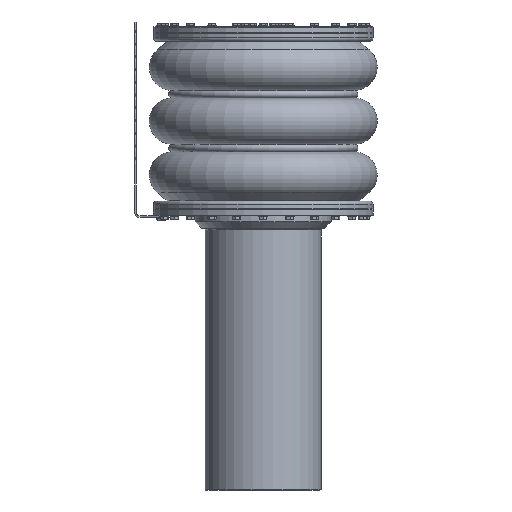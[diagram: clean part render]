
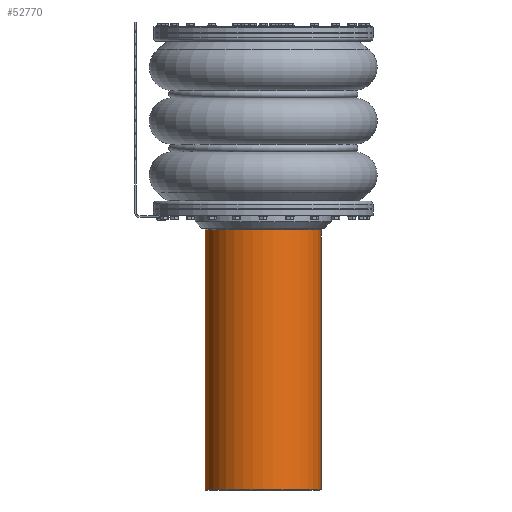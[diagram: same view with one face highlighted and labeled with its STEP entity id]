
A CAD part, left-side view. The second image highlights one B-rep face of the part: STEP entity #52770.
In plain terms, the highlighted cylindrical face has radius 136.5 mm (diameter 273 mm), a full revolution.
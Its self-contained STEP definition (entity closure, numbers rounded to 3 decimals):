
#3909=LINE('',#72112,#7798);
#7798=VECTOR('',#60708,136.5);
#11500=CYLINDRICAL_SURFACE('',#56171,136.5);
#12747=FACE_OUTER_BOUND('',#15875,.T.);
#15875=EDGE_LOOP('',(#34154,#34155,#34156,#34157));
#19357=CIRCLE('',#56172,136.5);
#19358=CIRCLE('',#56173,136.5);
#20851=VERTEX_POINT('',#72109);
#20852=VERTEX_POINT('',#72111);
#25979=EDGE_CURVE('',#20851,#20851,#19357,.T.);
#25980=EDGE_CURVE('',#20851,#20852,#3909,.T.);
#25981=EDGE_CURVE('',#20852,#20852,#19358,.T.);
#34154=ORIENTED_EDGE('',*,*,#25979,.F.);
#34155=ORIENTED_EDGE('',*,*,#25980,.T.);
#34156=ORIENTED_EDGE('',*,*,#25981,.F.);
#34157=ORIENTED_EDGE('',*,*,#25980,.F.);
#52770=ADVANCED_FACE('',(#12747),#11500,.T.);
#56171=AXIS2_PLACEMENT_3D('',#72108,#60704,#60705);
#56172=AXIS2_PLACEMENT_3D('',#72110,#60706,#60707);
#56173=AXIS2_PLACEMENT_3D('',#72113,#60709,#60710);
#60704=DIRECTION('center_axis',(0.,0.,
-1.));
#60705=DIRECTION('ref_axis',(-1.,0.,0.));
#60706=DIRECTION('center_axis',(0.,0.,
-1.));
#60707=DIRECTION('ref_axis',(-1.,0.,0.));
#60708=DIRECTION('',(0.,0.,1.));
#60709=DIRECTION('center_axis',(0.,0.,
1.));
#60710=DIRECTION('ref_axis',(-1.,0.,0.));
#72108=CARTESIAN_POINT('Origin',(0.,0.,
-633.));
#72109=CARTESIAN_POINT('',(136.5,0.,-645.));
#72110=CARTESIAN_POINT('Origin',(0.,0.,
-645.));
#72111=CARTESIAN_POINT('',(136.5,0.,-33.743));
#72112=CARTESIAN_POINT('',(136.5,0.,-633.));
#72113=CARTESIAN_POINT('Origin',(0.,0.,
-33.743));
